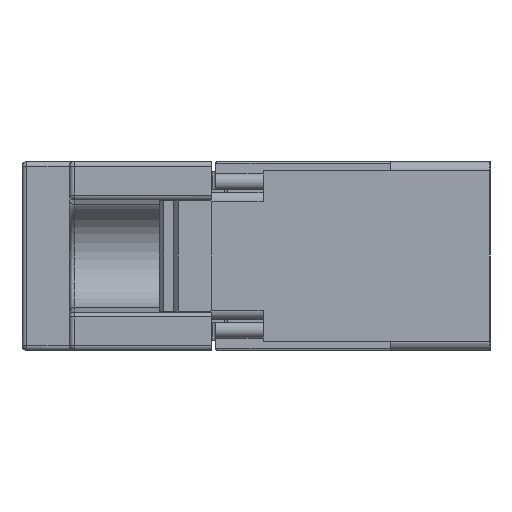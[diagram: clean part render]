
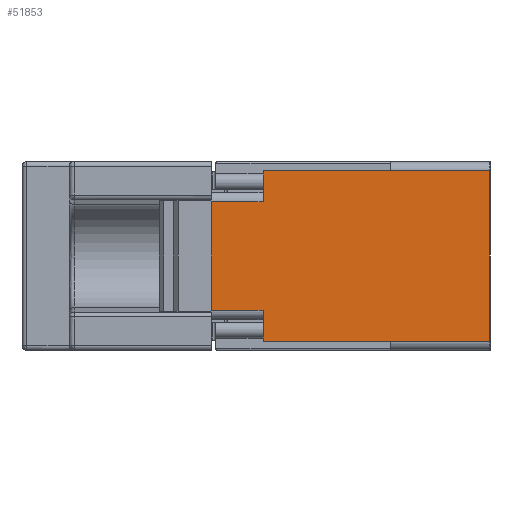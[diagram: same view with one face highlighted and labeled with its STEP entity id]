
A CAD part, left-side view. The second image highlights one B-rep face of the part: STEP entity #51853.
In plain terms, the highlighted planar face has unit normal (-1, 0, 0).
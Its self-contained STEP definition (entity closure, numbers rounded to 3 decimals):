
#1958 = VECTOR ( 'NONE', #65265, 1000. ) ;
#2522 = EDGE_CURVE ( 'NONE', #44148, #61798, #19893, .T. ) ;
#2743 = CARTESIAN_POINT ( 'NONE',  ( -103.25, 29.5, 9. ) ) ;
#3581 = EDGE_CURVE ( 'NONE', #18543, #71556, #11587, .T. ) ;
#4365 = DIRECTION ( 'NONE',  ( 0., -1., 0. ) ) ;
#4891 = DIRECTION ( 'NONE',  ( 0., 0., 1. ) ) ;
#5814 = LINE ( 'NONE', #17814, #64677 ) ;
#8587 = VECTOR ( 'NONE', #32867, 1000. ) ;
#9367 = CARTESIAN_POINT ( 'NONE',  ( -103.25, 0., -10. ) ) ;
#9452 = VECTOR ( 'NONE', #4365, 1000. ) ;
#9514 = LINE ( 'NONE', #2743, #8587 ) ;
#10644 = VECTOR ( 'NONE', #20143, 1000. ) ;
#11587 = LINE ( 'NONE', #65711, #10644 ) ;
#12983 = EDGE_CURVE ( 'NONE', #44148, #57766, #45557, .T. ) ;
#13053 = VERTEX_POINT ( 'NONE', #59440 ) ;
#13555 = ORIENTED_EDGE ( 'NONE', *, *, #34847, .T. ) ;
#14089 = EDGE_CURVE ( 'NONE', #67510, #61798, #9514, .T. ) ;
#14321 = CARTESIAN_POINT ( 'NONE',  ( -103.25, 24., 9. ) ) ;
#15125 = DIRECTION ( 'NONE',  ( 0., 1., 0. ) ) ;
#15645 = CARTESIAN_POINT ( 'NONE',  ( -103.25, 24., -9. ) ) ;
#17814 = CARTESIAN_POINT ( 'NONE',  ( -103.25, 29.5, -10. ) ) ;
#18543 = VERTEX_POINT ( 'NONE', #29412 ) ;
#19893 = LINE ( 'NONE', #58499, #1958 ) ;
#20143 = DIRECTION ( 'NONE',  ( 0., -1., 0. ) ) ;
#22111 = ORIENTED_EDGE ( 'NONE', *, *, #3581, .T. ) ;
#25978 = VECTOR ( 'NONE', #51724, 1000. ) ;
#26981 = EDGE_CURVE ( 'NONE', #57766, #48527, #41102, .T. ) ;
#28272 = CARTESIAN_POINT ( 'NONE',  ( -103.25, 29.5, -5.75 ) ) ;
#29412 = CARTESIAN_POINT ( 'NONE',  ( -103.25, 10.5, -9. ) ) ;
#30304 = CARTESIAN_POINT ( 'NONE',  ( -103.25, 24., -9. ) ) ;
#31063 = VECTOR ( 'NONE', #15125, 1000. ) ;
#31120 = VECTOR ( 'NONE', #42771, 1000. ) ;
#31619 = CARTESIAN_POINT ( 'NONE',  ( -103.25, 0., 9. ) ) ;
#32386 = ORIENTED_EDGE ( 'NONE', *, *, #50074, .T. ) ;
#32867 = DIRECTION ( 'NONE',  ( 0., 1., 0. ) ) ;
#33020 = ORIENTED_EDGE ( 'NONE', *, *, #39239, .T. ) ;
#33506 = LINE ( 'NONE', #15645, #9452 ) ;
#34505 = ORIENTED_EDGE ( 'NONE', *, *, #41357, .T. ) ;
#34847 = EDGE_CURVE ( 'NONE', #71556, #67510, #46311, .T. ) ;
#35903 = ORIENTED_EDGE ( 'NONE', *, *, #12983, .T. ) ;
#37088 = FACE_OUTER_BOUND ( 'NONE', #50343, .T. ) ;
#38538 = DIRECTION ( 'NONE',  ( -1., 0., 0. ) ) ;
#39239 = EDGE_CURVE ( 'NONE', #13053, #67956, #47891, .T. ) ;
#41102 = LINE ( 'NONE', #50751, #25978 ) ;
#41357 = EDGE_CURVE ( 'NONE', #67956, #18543, #33506, .T. ) ;
#41809 = CARTESIAN_POINT ( 'NONE',  ( -103.25, 24., 9. ) ) ;
#42508 = VECTOR ( 'NONE', #48691, 1000. ) ;
#42771 = DIRECTION ( 'NONE',  ( 0., 0., 1. ) ) ;
#44148 = VERTEX_POINT ( 'NONE', #47187 ) ;
#44546 = PLANE ( 'NONE',  #48926 ) ;
#45485 = CARTESIAN_POINT ( 'NONE',  ( -103.25, 29.5, 5.75 ) ) ;
#45557 = LINE ( 'NONE', #41809, #68625 ) ;
#46182 = CARTESIAN_POINT ( 'NONE',  ( -103.25, 10.5, 9. ) ) ;
#46311 = LINE ( 'NONE', #9367, #31120 ) ;
#47187 = CARTESIAN_POINT ( 'NONE',  ( -103.25, 24., 9. ) ) ;
#47567 = DIRECTION ( 'NONE',  ( 0., 0., -1. ) ) ;
#47891 = LINE ( 'NONE', #14321, #42508 ) ;
#48527 = VERTEX_POINT ( 'NONE', #45485 ) ;
#48691 = DIRECTION ( 'NONE',  ( 0., 0., -1. ) ) ;
#48926 = AXIS2_PLACEMENT_3D ( 'NONE', #67649, #38538, #4891 ) ;
#49220 = CARTESIAN_POINT ( 'NONE',  ( -103.25, 35., -5.75 ) ) ;
#49679 = ORIENTED_EDGE ( 'NONE', *, *, #14089, .T. ) ;
#50074 = EDGE_CURVE ( 'NONE', #48527, #52471, #5814, .T. ) ;
#50343 = EDGE_LOOP ( 'NONE', ( #34505, #22111, #13555, #49679, #52717, #35903, #61170, #32386, #65867, #33020 ) ) ;
#50716 = EDGE_CURVE ( 'NONE', #13053, #52471, #56077, .T. ) ;
#50751 = CARTESIAN_POINT ( 'NONE',  ( -103.25, 29.5, 5.75 ) ) ;
#51724 = DIRECTION ( 'NONE',  ( 0., 1., 0. ) ) ;
#51853 = ADVANCED_FACE ( 'NONE', ( #37088 ), #44546, .T. ) ;
#52172 = DIRECTION ( 'NONE',  ( 0., 0., -1. ) ) ;
#52471 = VERTEX_POINT ( 'NONE', #28272 ) ;
#52717 = ORIENTED_EDGE ( 'NONE', *, *, #2522, .F. ) ;
#56077 = LINE ( 'NONE', #49220, #31063 ) ;
#57766 = VERTEX_POINT ( 'NONE', #73809 ) ;
#58499 = CARTESIAN_POINT ( 'NONE',  ( -103.25, 24., 9. ) ) ;
#59440 = CARTESIAN_POINT ( 'NONE',  ( -103.25, 24., -5.75 ) ) ;
#61170 = ORIENTED_EDGE ( 'NONE', *, *, #26981, .T. ) ;
#61798 = VERTEX_POINT ( 'NONE', #46182 ) ;
#63137 = CARTESIAN_POINT ( 'NONE',  ( -103.25, 0., -9. ) ) ;
#64677 = VECTOR ( 'NONE', #52172, 1000. ) ;
#65265 = DIRECTION ( 'NONE',  ( 0., -1., 0. ) ) ;
#65711 = CARTESIAN_POINT ( 'NONE',  ( -103.25, 29.5, -9. ) ) ;
#65867 = ORIENTED_EDGE ( 'NONE', *, *, #50716, .F. ) ;
#67510 = VERTEX_POINT ( 'NONE', #31619 ) ;
#67649 = CARTESIAN_POINT ( 'NONE',  ( -103.25, 29.5, -10. ) ) ;
#67956 = VERTEX_POINT ( 'NONE', #30304 ) ;
#68625 = VECTOR ( 'NONE', #47567, 1000. ) ;
#71556 = VERTEX_POINT ( 'NONE', #63137 ) ;
#73809 = CARTESIAN_POINT ( 'NONE',  ( -103.25, 24., 5.75 ) ) ;
